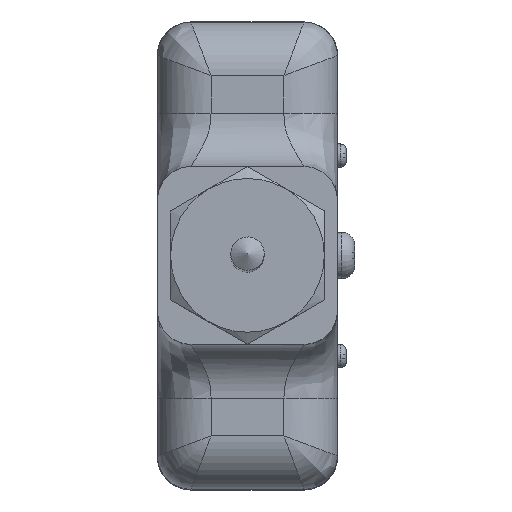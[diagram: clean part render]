
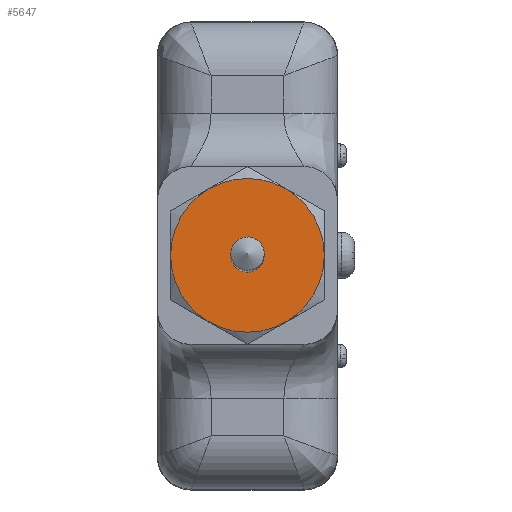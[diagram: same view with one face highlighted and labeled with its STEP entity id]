
A CAD part, top view. The second image highlights one B-rep face of the part: STEP entity #5647.
In plain terms, the highlighted planar face has unit normal (0, 0, 1).
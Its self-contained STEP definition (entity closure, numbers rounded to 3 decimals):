
#826 = DIRECTION ( 'NONE',  ( 0., 0., -1. ) ) ;
#918 = VERTEX_POINT ( 'NONE', #3265 ) ;
#1222 = ORIENTED_EDGE ( 'NONE', *, *, #6650, .F. ) ;
#1346 = AXIS2_PLACEMENT_3D ( 'NONE', #7200, #826, #4333 ) ;
#2354 = EDGE_LOOP ( 'NONE', ( #1222 ) ) ;
#3125 = AXIS2_PLACEMENT_3D ( 'NONE', #5246, #4595, #5209 ) ;
#3265 = CARTESIAN_POINT ( 'NONE',  ( 979.085, 986.048, 1064.131 ) ) ;
#3667 = CIRCLE ( 'NONE', #1346, 11.5 ) ;
#4333 = DIRECTION ( 'NONE',  ( 0., -1., 0. ) ) ;
#4595 = DIRECTION ( 'NONE',  ( 0., 0., 1. ) ) ;
#5209 = DIRECTION ( 'NONE',  ( 0., 1., 0. ) ) ;
#5246 = CARTESIAN_POINT ( 'NONE',  ( 979.085, 997.548, 1064.131 ) ) ;
#5647 = ADVANCED_FACE ( 'NONE', ( #6426 ), #5736, .T. ) ;
#5736 = PLANE ( 'NONE',  #3125 ) ;
#6426 = FACE_OUTER_BOUND ( 'NONE', #2354, .T. ) ;
#6650 = EDGE_CURVE ( 'NONE', #918, #918, #3667, .T. ) ;
#7200 = CARTESIAN_POINT ( 'NONE',  ( 979.085, 997.548, 1064.131 ) ) ;
